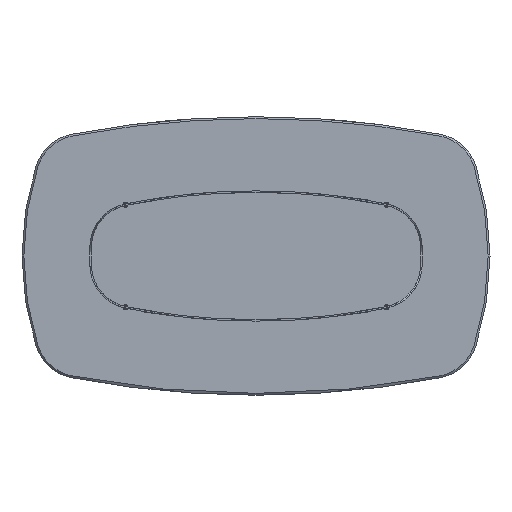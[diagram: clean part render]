
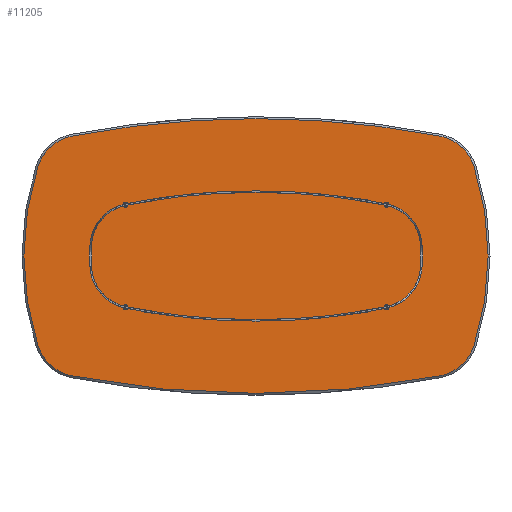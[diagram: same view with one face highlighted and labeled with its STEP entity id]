
A CAD part, front view. The second image highlights one B-rep face of the part: STEP entity #11205.
In plain terms, the highlighted planar face has unit normal (0, -1, 0).
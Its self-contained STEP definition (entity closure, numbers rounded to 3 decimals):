
#140 = ORIENTED_EDGE ( 'NONE', *, *, #1530, .T. ) ;
#238 = EDGE_CURVE ( 'NONE', #4783, #9890, #13791, .T. ) ;
#262 = CARTESIAN_POINT ( 'NONE',  ( 785.163, 0., -512.813 ) ) ;
#274 = AXIS2_PLACEMENT_3D ( 'NONE', #4191, #12234, #335 ) ;
#335 = DIRECTION ( 'NONE',  ( 0., 0., 1. ) ) ;
#460 = DIRECTION ( 'NONE',  ( 0., 0., 1. ) ) ;
#505 = DIRECTION ( 'NONE',  ( 0., -1., 0. ) ) ;
#896 = EDGE_CURVE ( 'NONE', #14918, #12938, #8139, .T. ) ;
#1081 = DIRECTION ( 'NONE',  ( 0., -1., 0. ) ) ;
#1394 = AXIS2_PLACEMENT_3D ( 'NONE', #11674, #1081, #7849 ) ;
#1530 = EDGE_CURVE ( 'NONE', #12938, #3154, #16634, .T. ) ;
#1730 = DIRECTION ( 'NONE',  ( 0., -1., 0. ) ) ;
#2227 = DIRECTION ( 'NONE',  ( 0., 0., 1. ) ) ;
#2546 = CIRCLE ( 'NONE', #14664, 192. ) ;
#2594 = CARTESIAN_POINT ( 'NONE',  ( -130., 0., 1802.5 ) ) ;
#2656 = AXIS2_PLACEMENT_3D ( 'NONE', #2877, #1730, #3231 ) ;
#2805 = AXIS2_PLACEMENT_3D ( 'NONE', #11190, #10926, #14195 ) ;
#2877 = CARTESIAN_POINT ( 'NONE',  ( 0., 0., -3605. ) ) ;
#2898 = CIRCLE ( 'NONE', #4004, 1252. ) ;
#3123 = DIRECTION ( 'NONE',  ( 0., 0., 1. ) ) ;
#3154 = VERTEX_POINT ( 'NONE', #13964 ) ;
#3231 = DIRECTION ( 'NONE',  ( 0., 0., 1. ) ) ;
#3288 = CARTESIAN_POINT ( 'NONE',  ( -785.163, 0., -512.813 ) ) ;
#3374 = CARTESIAN_POINT ( 'NONE',  ( -260., 0., 0. ) ) ;
#3552 = DIRECTION ( 'NONE',  ( 0., -1., 0. ) ) ;
#3906 = PLANE ( 'NONE',  #8271 ) ;
#4004 = AXIS2_PLACEMENT_3D ( 'NONE', #3374, #3552, #13963 ) ;
#4106 = EDGE_CURVE ( 'NONE', #11618, #6941, #2546, .T. ) ;
#4191 = CARTESIAN_POINT ( 'NONE',  ( 0., 0., -3605. ) ) ;
#4783 = VERTEX_POINT ( 'NONE', #13023 ) ;
#5186 = EDGE_LOOP ( 'NONE', ( #14038, #16811, #16116, #10779, #9238, #9041, #10108, #140, #11215 ) ) ;
#5608 = CIRCLE ( 'NONE', #12089, 1252. ) ;
#6504 = EDGE_CURVE ( 'NONE', #11637, #11618, #2898, .T. ) ;
#6941 = VERTEX_POINT ( 'NONE', #12884 ) ;
#7223 = CARTESIAN_POINT ( 'NONE',  ( -785.163, 0., 512.813 ) ) ;
#7428 = CARTESIAN_POINT ( 'NONE',  ( 260., 0., 0. ) ) ;
#7849 = DIRECTION ( 'NONE',  ( 0., 0., 1. ) ) ;
#7861 = AXIS2_PLACEMENT_3D ( 'NONE', #12322, #505, #12238 ) ;
#8106 = CARTESIAN_POINT ( 'NONE',  ( 932., 0., -382.936 ) ) ;
#8139 = CIRCLE ( 'NONE', #274, 4192. ) ;
#8271 = AXIS2_PLACEMENT_3D ( 'NONE', #2594, #11228, #3123 ) ;
#8816 = DIRECTION ( 'NONE',  ( 0., 0., 1. ) ) ;
#9041 = ORIENTED_EDGE ( 'NONE', *, *, #10378, .T. ) ;
#9238 = ORIENTED_EDGE ( 'NONE', *, *, #4106, .T. ) ;
#9890 = VERTEX_POINT ( 'NONE', #3288 ) ;
#10108 = ORIENTED_EDGE ( 'NONE', *, *, #896, .T. ) ;
#10378 = EDGE_CURVE ( 'NONE', #6941, #14918, #13361, .T. ) ;
#10520 = EDGE_CURVE ( 'NONE', #13445, #11637, #14493, .T. ) ;
#10779 = ORIENTED_EDGE ( 'NONE', *, *, #6504, .T. ) ;
#10926 = DIRECTION ( 'NONE',  ( 0., -1., 0. ) ) ;
#11190 = CARTESIAN_POINT ( 'NONE',  ( -749.201, 0., -324.211 ) ) ;
#11205 = ADVANCED_FACE ( 'NONE', ( #16007 ), #3906, .F. ) ;
#11215 = ORIENTED_EDGE ( 'NONE', *, *, #15866, .T. ) ;
#11228 = DIRECTION ( 'NONE',  ( 0., 1., 0. ) ) ;
#11544 = CIRCLE ( 'NONE', #1394, 4192. ) ;
#11618 = VERTEX_POINT ( 'NONE', #14838 ) ;
#11637 = VERTEX_POINT ( 'NONE', #8106 ) ;
#11674 = CARTESIAN_POINT ( 'NONE',  ( 0., 0., 3605. ) ) ;
#12089 = AXIS2_PLACEMENT_3D ( 'NONE', #7428, #12909, #2227 ) ;
#12206 = CARTESIAN_POINT ( 'NONE',  ( 749.201, 0., -324.211 ) ) ;
#12234 = DIRECTION ( 'NONE',  ( 0., -1., 0. ) ) ;
#12238 = DIRECTION ( 'NONE',  ( 0., 0., 1. ) ) ;
#12322 = CARTESIAN_POINT ( 'NONE',  ( -749.201, 0., 324.211 ) ) ;
#12884 = CARTESIAN_POINT ( 'NONE',  ( 785.163, 0., 512.813 ) ) ;
#12909 = DIRECTION ( 'NONE',  ( 0., -1., 0. ) ) ;
#12938 = VERTEX_POINT ( 'NONE', #7223 ) ;
#13023 = CARTESIAN_POINT ( 'NONE',  ( -932., 0., -382.936 ) ) ;
#13361 = CIRCLE ( 'NONE', #2656, 4192. ) ;
#13445 = VERTEX_POINT ( 'NONE', #262 ) ;
#13791 = CIRCLE ( 'NONE', #2805, 192. ) ;
#13927 = AXIS2_PLACEMENT_3D ( 'NONE', #12206, #15296, #8816 ) ;
#13950 = DIRECTION ( 'NONE',  ( 0., -1., 0. ) ) ;
#13963 = DIRECTION ( 'NONE',  ( 0., 0., 1. ) ) ;
#13964 = CARTESIAN_POINT ( 'NONE',  ( -932., 0., 382.936 ) ) ;
#14038 = ORIENTED_EDGE ( 'NONE', *, *, #238, .T. ) ;
#14041 = EDGE_CURVE ( 'NONE', #9890, #13445, #11544, .T. ) ;
#14195 = DIRECTION ( 'NONE',  ( 0., 0., 1. ) ) ;
#14493 = CIRCLE ( 'NONE', #13927, 192. ) ;
#14664 = AXIS2_PLACEMENT_3D ( 'NONE', #15368, #13950, #460 ) ;
#14838 = CARTESIAN_POINT ( 'NONE',  ( 932., 0., 382.936 ) ) ;
#14918 = VERTEX_POINT ( 'NONE', #16729 ) ;
#15296 = DIRECTION ( 'NONE',  ( 0., -1., 0. ) ) ;
#15368 = CARTESIAN_POINT ( 'NONE',  ( 749.201, 0., 324.211 ) ) ;
#15866 = EDGE_CURVE ( 'NONE', #3154, #4783, #5608, .T. ) ;
#16007 = FACE_OUTER_BOUND ( 'NONE', #5186, .T. ) ;
#16116 = ORIENTED_EDGE ( 'NONE', *, *, #10520, .T. ) ;
#16634 = CIRCLE ( 'NONE', #7861, 192. ) ;
#16729 = CARTESIAN_POINT ( 'NONE',  ( 0., 0., 587. ) ) ;
#16811 = ORIENTED_EDGE ( 'NONE', *, *, #14041, .T. ) ;
